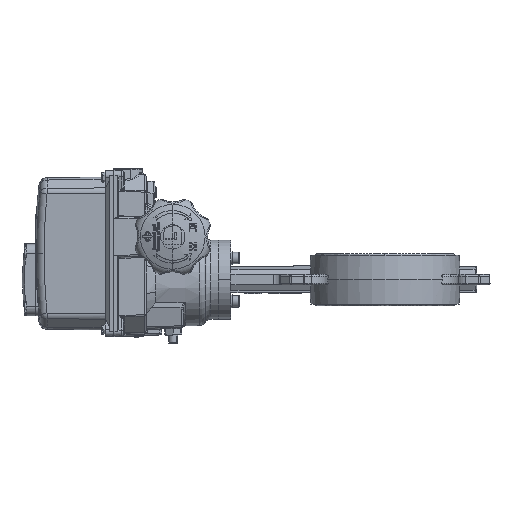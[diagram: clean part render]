
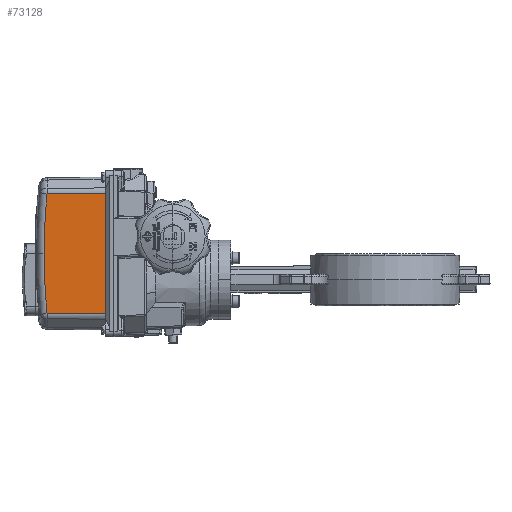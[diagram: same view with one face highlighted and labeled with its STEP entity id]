
A CAD part, left-side view. The second image highlights one B-rep face of the part: STEP entity #73128.
In plain terms, the highlighted planar face has unit normal (-1, 0.013, 0).
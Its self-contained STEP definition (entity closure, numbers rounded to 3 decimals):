
#1693 = ORIENTED_EDGE ( 'NONE', *, *, #3294, .T. ) ;
#3100 = CIRCLE ( 'NONE', #67915, 688.92 ) ;
#3294 = EDGE_CURVE ( 'NONE', #100522, #80736, #61871, .T. ) ;
#4352 = ORIENTED_EDGE ( 'NONE', *, *, #30556, .T. ) ;
#4818 = CARTESIAN_POINT ( 'NONE',  ( -65.589, -299.385, 29.913 ) ) ;
#10836 = CARTESIAN_POINT ( 'NONE',  ( -57.413, 309.72, -39.088 ) ) ;
#11737 = VERTEX_POINT ( 'NONE', #87386 ) ;
#20482 = DIRECTION ( 'NONE',  ( -0.013, -1., -0.006 ) ) ;
#22328 = LINE ( 'NONE', #10836, #26160 ) ;
#23267 = CARTESIAN_POINT ( 'NONE',  ( -56.388, 386.051, 98.489 ) ) ;
#25428 = ORIENTED_EDGE ( 'NONE', *, *, #42574, .T. ) ;
#26160 = VECTOR ( 'NONE', #20482, 1000. ) ;
#26495 = DIRECTION ( 'NONE',  ( 0.013, 1., -0.006 ) ) ;
#30556 = EDGE_CURVE ( 'NONE', #11737, #100522, #22328, .T. ) ;
#30761 = AXIS2_PLACEMENT_3D ( 'NONE', #4818, #80784, #99256 ) ;
#31170 = DIRECTION ( 'NONE',  ( 0., 0., 1. ) ) ;
#31619 = ORIENTED_EDGE ( 'NONE', *, *, #48490, .T. ) ;
#34563 = CARTESIAN_POINT ( 'NONE',  ( -57.411, 309.826, 98.912 ) ) ;
#36356 = LINE ( 'NONE', #34563, #62788 ) ;
#42574 = EDGE_CURVE ( 'NONE', #81198, #67135, #3100, .T. ) ;
#45192 = ORIENTED_EDGE ( 'NONE', *, *, #53713, .T. ) ;
#45586 = CARTESIAN_POINT ( 'NONE',  ( -56.342, 389.473, 29.913 ) ) ;
#48490 = EDGE_CURVE ( 'NONE', #67135, #11737, #92579, .T. ) ;
#48968 = CARTESIAN_POINT ( 'NONE',  ( -57.279, 319.7, 98.858 ) ) ;
#53713 = EDGE_CURVE ( 'NONE', #80736, #81198, #36356, .T. ) ;
#55147 = PLANE ( 'NONE',  #91989 ) ;
#57945 = VECTOR ( 'NONE', #31170, 1000. ) ;
#61871 = LINE ( 'NONE', #63369, #57945 ) ;
#62788 = VECTOR ( 'NONE', #26495, 1000. ) ;
#63324 = DIRECTION ( 'NONE',  ( 0.013, 1., 0. ) ) ;
#63369 = CARTESIAN_POINT ( 'NONE',  ( -57.279, 319.7, -41.573 ) ) ;
#66893 = CARTESIAN_POINT ( 'NONE',  ( -65.589, -299.385, 29.913 ) ) ;
#67135 = VERTEX_POINT ( 'NONE', #45586 ) ;
#67517 = EDGE_LOOP ( 'NONE', ( #4352, #1693, #45192, #25428, #31619 ) ) ;
#67915 = AXIS2_PLACEMENT_3D ( 'NONE', #66893, #108114, #91055 ) ;
#73128 = ADVANCED_FACE ( 'NONE', ( #95250 ), #55147, .T. ) ;
#80736 = VERTEX_POINT ( 'NONE', #48968 ) ;
#80784 = DIRECTION ( 'NONE',  ( -1., 0.013, 0. ) ) ;
#81198 = VERTEX_POINT ( 'NONE', #23267 ) ;
#81944 = CARTESIAN_POINT ( 'NONE',  ( -57.279, 319.7, -39.032 ) ) ;
#87386 = CARTESIAN_POINT ( 'NONE',  ( -56.388, 386.051, -38.663 ) ) ;
#89693 = CARTESIAN_POINT ( 'NONE',  ( -57.412, 309.734, -41.573 ) ) ;
#91055 = DIRECTION ( 'NONE',  ( 0.013, 1., 0. ) ) ;
#91989 = AXIS2_PLACEMENT_3D ( 'NONE', #89693, #106691, #63324 ) ;
#92579 = CIRCLE ( 'NONE', #30761, 688.92 ) ;
#95250 = FACE_OUTER_BOUND ( 'NONE', #67517, .T. ) ;
#99256 = DIRECTION ( 'NONE',  ( 0.013, 1., 0. ) ) ;
#100522 = VERTEX_POINT ( 'NONE', #81944 ) ;
#106691 = DIRECTION ( 'NONE',  ( -1., 0.013, 0. ) ) ;
#108114 = DIRECTION ( 'NONE',  ( -1., 0.013, 0. ) ) ;
